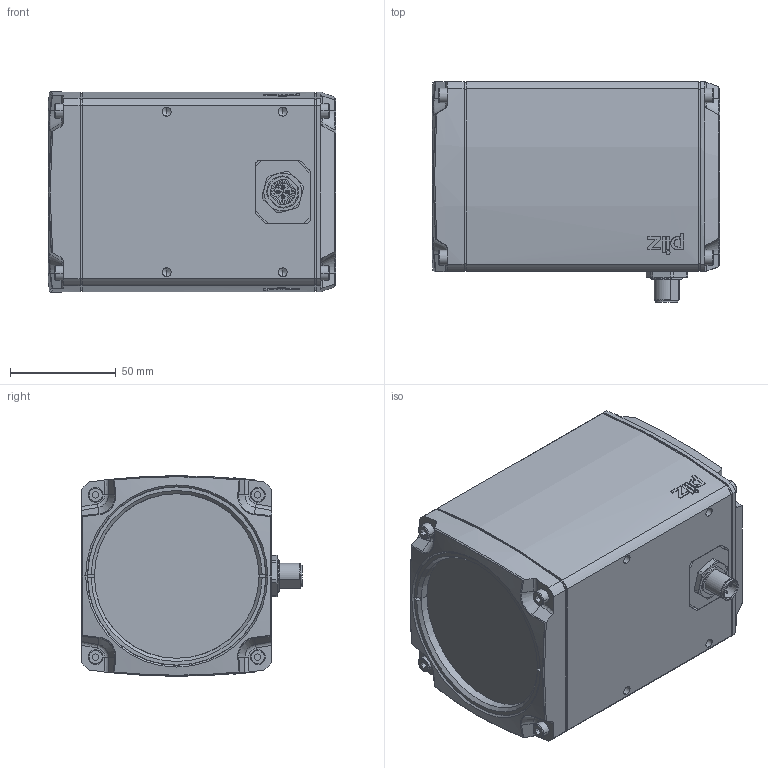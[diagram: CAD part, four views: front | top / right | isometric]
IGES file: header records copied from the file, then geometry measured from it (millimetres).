
Start section:  PTC IGES file: 2017194
Global section: file name: 2017194; native system: Creo Parametric by Parametric Technology Corporation; preprocessor: 2014310; author: veit; organization: Unknown; date: 20150227.134508; units: millimetre
Bounding box: 136 x 104.5 x 95 mm (x, y, z)
Surface area: 68689.1 mm2 (no closed solid volume)
Topology: 0 solids, 0 shells, 507 faces, 2564 edges, 2548 vertices
Faces by surface type: bspline 288, revolution 215, extrusion 4
